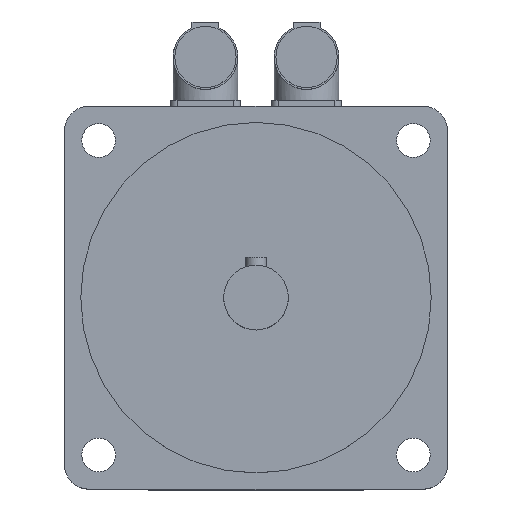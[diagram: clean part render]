
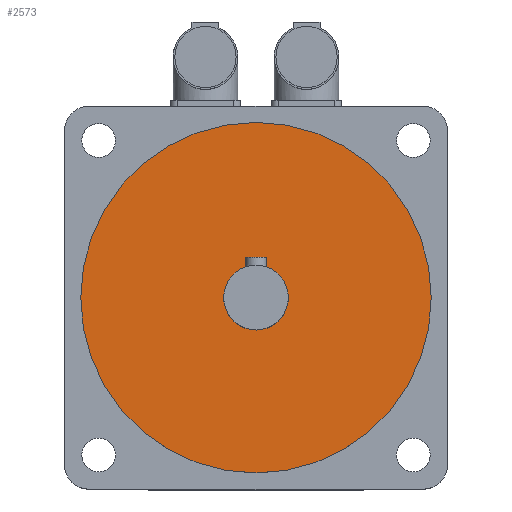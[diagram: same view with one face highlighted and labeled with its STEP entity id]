
A CAD part, top view. The second image highlights one B-rep face of the part: STEP entity #2573.
In plain terms, the highlighted planar face has unit normal (0, 0, 1).
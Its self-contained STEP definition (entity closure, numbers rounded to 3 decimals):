
#40=FACE_BOUND('',#443,.T.);
#68=CIRCLE('',#2730,12.);
#69=CIRCLE('',#2733,65.);
#285=FACE_OUTER_BOUND('',#442,.T.);
#442=EDGE_LOOP('',(#1750));
#443=EDGE_LOOP('',(#1751));
#1090=VERTEX_POINT('',#3908);
#1091=VERTEX_POINT('',#3912);
#1348=EDGE_CURVE('',#1090,#1090,#68,.T.);
#1349=EDGE_CURVE('',#1091,#1091,#69,.T.);
#1750=ORIENTED_EDGE('',*,*,#1349,.T.);
#1751=ORIENTED_EDGE('',*,*,#1348,.T.);
#2497=PLANE('',#2735);
#2573=ADVANCED_FACE('',(#285,#40),#2497,.F.);
#2730=AXIS2_PLACEMENT_3D('',#3909,#3045,#3046);
#2733=AXIS2_PLACEMENT_3D('',#3913,#3051,#3052);
#2735=AXIS2_PLACEMENT_3D('',#3916,#3055,#3056);
#3045=DIRECTION('center_axis',(0.,0.,
-1.));
#3046=DIRECTION('ref_axis',(-1.,0.,0.));
#3051=DIRECTION('center_axis',(0.,0.,
1.));
#3052=DIRECTION('ref_axis',(-1.,0.,0.));
#3055=DIRECTION('center_axis',(0.,0.,
-1.));
#3056=DIRECTION('ref_axis',(-1.,0.,0.));
#3908=CARTESIAN_POINT('',(12.,0.,161.5));
#3909=CARTESIAN_POINT('Origin',(0.,0.,
161.5));
#3912=CARTESIAN_POINT('',(65.,0.,161.5));
#3913=CARTESIAN_POINT('Origin',(0.,0.,
161.5));
#3916=CARTESIAN_POINT('Origin',(0.,0.,
161.5));
